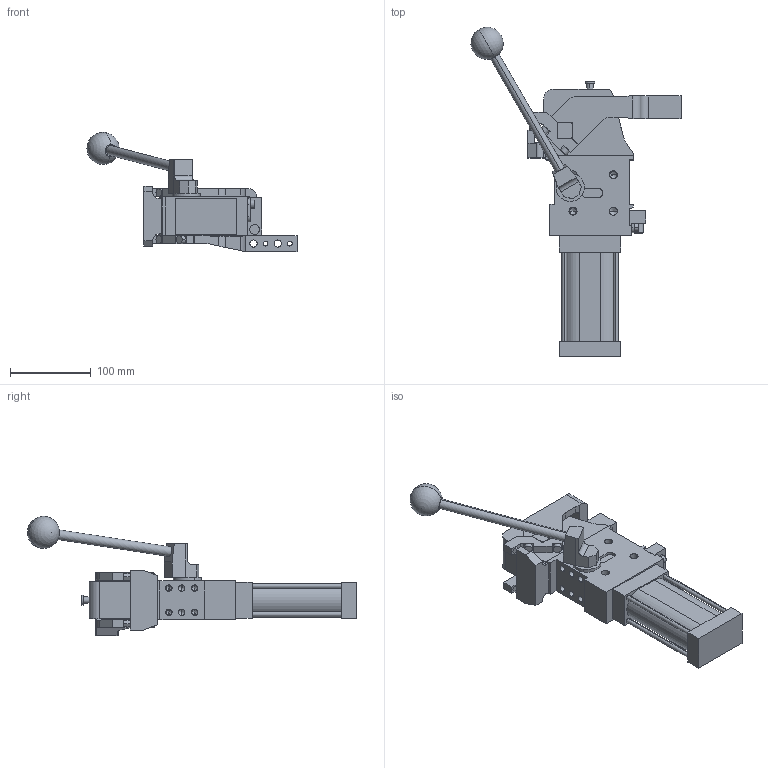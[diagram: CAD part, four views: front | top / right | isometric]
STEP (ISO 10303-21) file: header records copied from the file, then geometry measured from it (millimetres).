
FILE_DESCRIPTION (( 'STEP AP214' ), '1' );
FILE_NAME ('cplm50latv1dsi1g_16.STEP', '2023-01-26T13:27:29', ( '' ), ( '' ), 'SwSTEP 2.0', 'SolidWorks 2022', '' );
FILE_SCHEMA (( 'AUTOMOTIVE_DESIGN' ));
Length unit declared in the file: millimetre
Products named in the file (5): cplm50latv1dsi1g_16; leva_v1ds_cpl50t; meccanica_cplm_50_tassello_esterno; comando_manuale_cplm_50; blocchetto_VEP_0
Assembly tree (4 placements, depth 2):
  cplm50latv1dsi1g_16
    meccanica_cplm_50_tassello_esterno
    blocchetto_VEP_0
    leva_v1ds_cpl50t
    comando_manuale_cplm_50
Bounding box: 260.57 x 408.56 x 148 mm (x, y, z)
Volume: 1510268.7 mm3; surface area: 190869.6 mm2
Topology: 4 solids, 4 shells, 468 faces, 1213 edges, 761 vertices
Faces by surface type: plane 243, cylinder 173, cone 50, sphere 2
Entity records: 15558 total; most frequent: CARTESIAN_POINT 2483, DIRECTION 2468, ORIENTED_EDGE 2324, EDGE_CURVE 1162, AXIS2_PLACEMENT_3D 841, VECTOR 786, LINE 786, VERTEX_POINT 758
